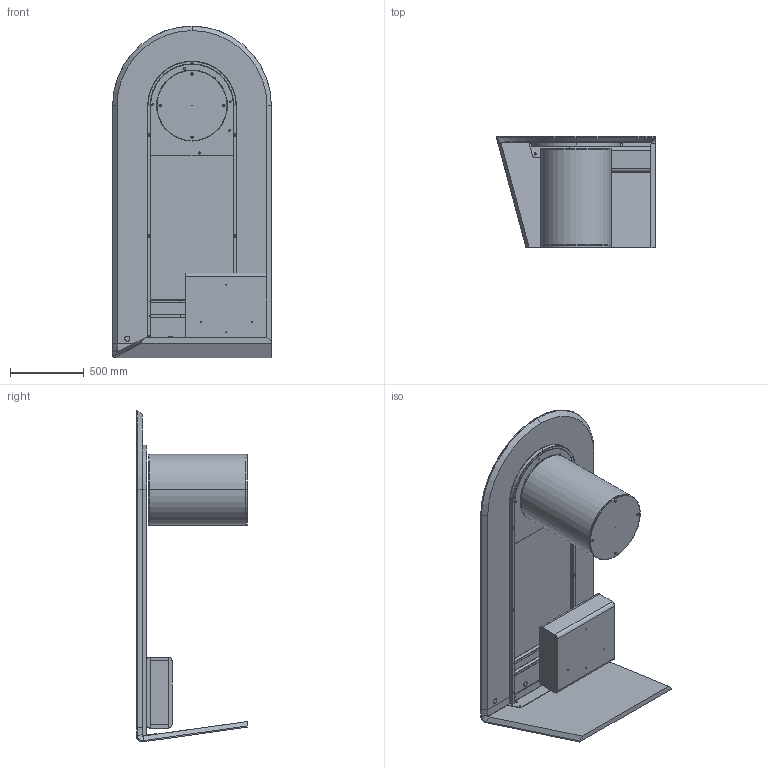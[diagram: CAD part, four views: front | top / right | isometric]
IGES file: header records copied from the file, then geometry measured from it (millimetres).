
Start section: SolidWorks IGES file using analytic representation for surfaces
Global section: file name: Y:\eforma\TECNICO\SOLIDWORKS\E-FORMA\7-SCRIVANIE\DESK\02 parts\CD70C_Cilindro Desk_225x108x75h_Ceramic.IGS; native system: SolidWorks 2022; preprocessor: SolidWorks 2022; author: eforma.tech; date: 240806.090757; units: millimetre
Bounding box: 1075 x 750 x 2245 mm (x, y, z)
Volume: 133958728.8 mm3; surface area: 16708129.4 mm2
Topology: 24 solids, 24 shells, 796 faces, 1994 edges, 1196 vertices
Faces by surface type: revolution 494, plane 297, bspline 5
